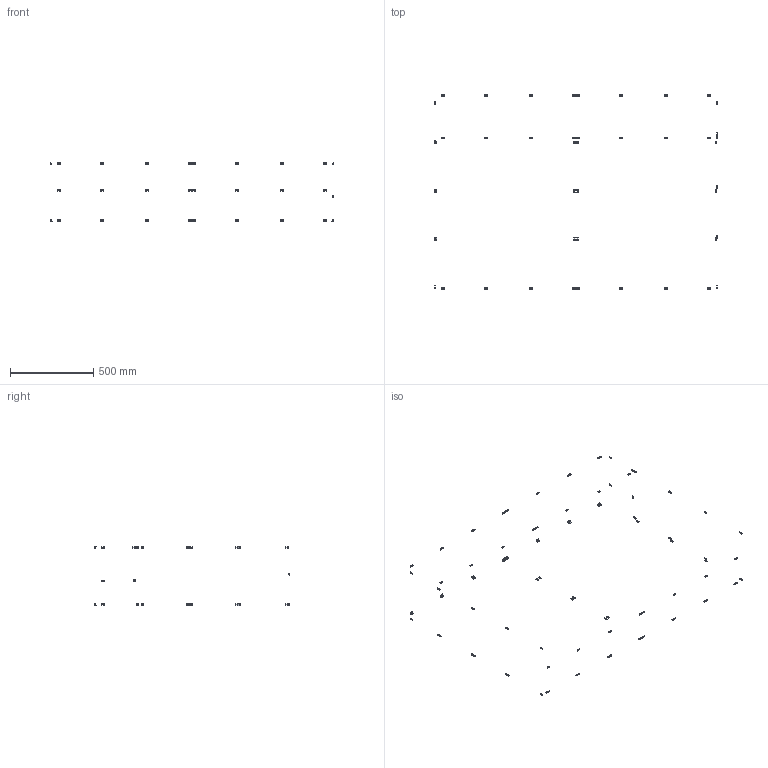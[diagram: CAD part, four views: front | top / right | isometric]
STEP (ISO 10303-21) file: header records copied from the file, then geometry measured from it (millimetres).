
FILE_DESCRIPTION(/* description */ (''),/* implementation_level */ '2;1');
FILE_NAME(/* name */ 'FR5E6F~1',/* time_stamp */ '2014-02-14T19:52:42+01:00',/* author */ (''),/* organization */ (''),/* preprocessor_version */ 'ST-DEVELOPER v14',/* originating_system */ '',/* authorisation */ '');
FILE_SCHEMA (('AUTOMOTIVE_DESIGN'));
Length unit declared in the file: millimetre
Products named in the file (2): Document; nut tslot, post, M5
Assembly tree (43 placements, depth 2):
  Document
    nut tslot, post, M5  x43
Bounding box: 1697.2 x 1167.2 x 357.2 mm (x, y, z)
Volume: 30871.7 mm3; surface area: 41112.9 mm2
Topology: 98 solids, 98 shells, 1274 faces, 3528 edges, 2352 vertices
Faces by surface type: plane 1078, bspline 196
Entity records: 53697 total; most frequent: CARTESIAN_POINT 25582, B_SPLINE_CURVE_WITH_KNOTS 5600, ORIENTED_EDGE 4032, PCURVE 4032, DEFINITIONAL_REPRESENTATION 4032, SURFACE_CURVE 2016, EDGE_CURVE 2016, VERTEX_POINT 1344
